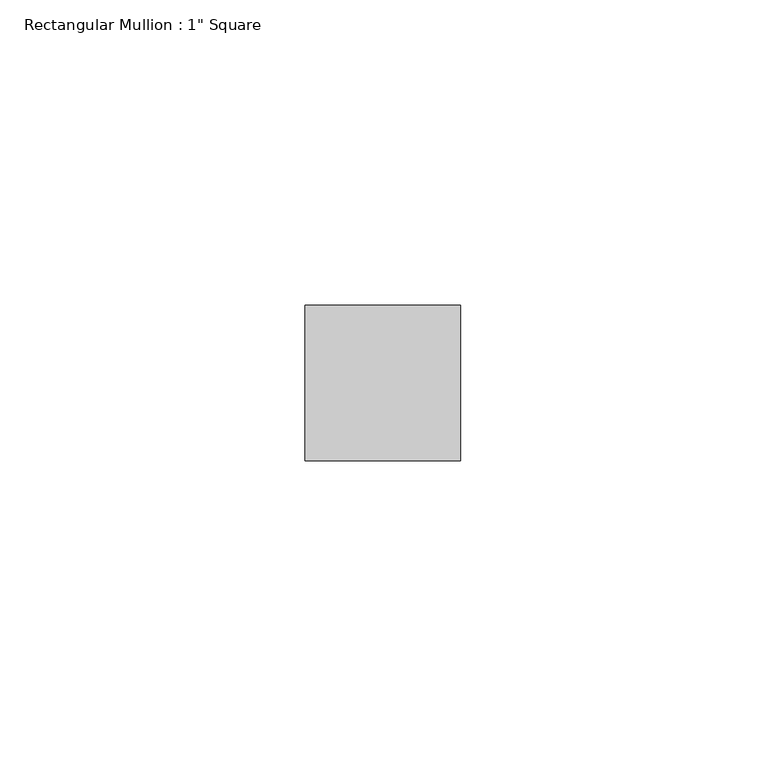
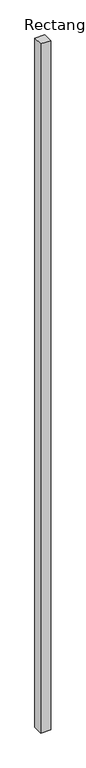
"""IFC4 building model written with IfcOpenShell, lengths in millimetres: member geometry."""

from ifc_helpers import new_model, si_unit, frame, origin, place, context, project, spatial, polyline, outline, extrude, source, transform, mapped, element, save


def member_54749c12(model_context):
    return source(origin(), model_context, "Body", "SweptSolid", [
        extrude(outline(polyline([(12.7, 12.7), (12.7, -12.7), (-12.7, -12.7), (-12.7, 12.7), (12.7, 12.7)])), frame((0.0, 0.0, -1852.7197192), z_axis=(0.0, 0.0, 1.0), x_axis=(1.0, 0.0, 0.0)), (0.0, 0.0, 1.0), 1852.7197192),
    ])


if __name__ == "__main__":
    model = new_model("IFC4")
    model_context = context("Model", 3, world=origin())
    ifc_project = project(units=[si_unit("LENGTHUNIT", "METRE", prefix="MILLI")], contexts=[model_context])
    site = spatial("IfcSite", under=ifc_project)
    building = spatial("IfcBuilding", under=site)
    placement = place(None, origin())
    member_shape = member_54749c12(model_context)
    element("IfcMember", 1, ObjectType="Rectangular Mullion : 1\" Square", at=placement, inside=building, context=model_context, shape_type="MappedRepresentation", body=[
        mapped(member_shape, transform((0.0, 0.0, 0.0), x_axis=(1.0, 0.0, 0.0), y_axis=(0.0, 1.0, 0.0), z_axis=(0.0, 0.0, 1.0))),
    ])
    save(model, "model.ifc")
